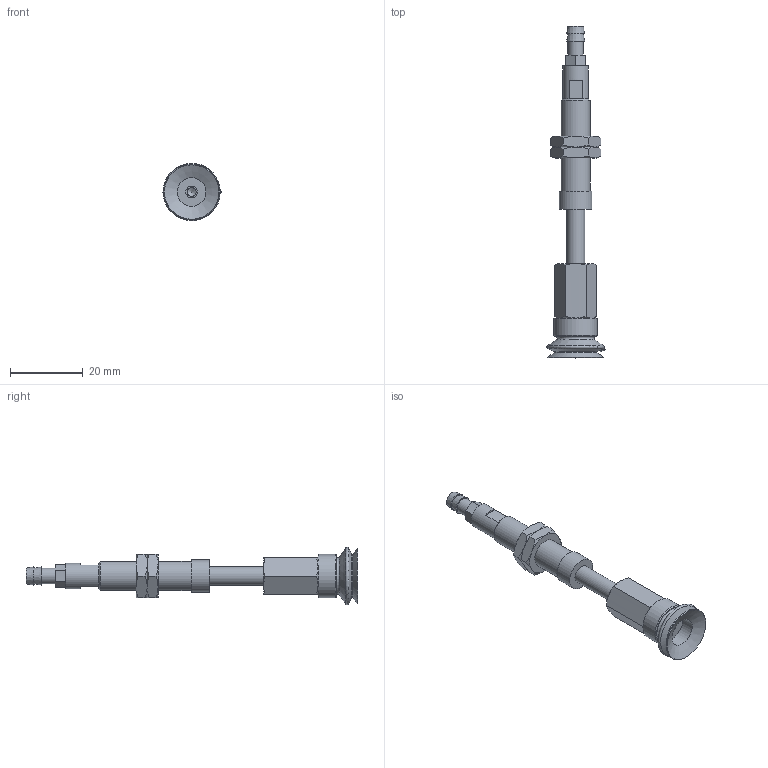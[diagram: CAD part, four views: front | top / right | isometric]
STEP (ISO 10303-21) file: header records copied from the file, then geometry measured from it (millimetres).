
FILE_DESCRIPTION(('STEP AP203'),'1');
FILE_NAME('-T.stp','2025-08-27T07:37:47',(' '),(' '),'Spatial InterOp 3D',' ',' ');
FILE_SCHEMA(('CONFIG_CONTROL_DESIGN'));
Length unit declared in the file: millimetre
Products named in the file (8): BNABPJTS-15-15-※-T; ADAPTER; NAPCTS-10-15-MBODY; Adapter-15-NAPJ; NUT-NAPJ-15-15-s; NAPJTS-15-15-FBODY; BPJG-15-※; T
Assembly tree (8 placements, depth 2):
  BNABPJTS-15-15-※-T
    ADAPTER
    NAPCTS-10-15-MBODY
    Adapter-15-NAPJ
    NUT-NAPJ-15-15-s  x2
    NAPJTS-15-15-FBODY
    BPJG-15-※
    T
Bounding box: 15.99 x 91.5 x 15.78 mm (x, y, z)
Volume: 5039.5 mm3; surface area: 5695.4 mm2
Topology: 8 solids, 8 shells, 155 faces, 325 edges, 194 vertices
Faces by surface type: plane 62, cone 56, cylinder 18, torus 9, bspline 6, sphere 4
Full cylindrical faces by diameter (mm): 2.5 x1, 3 x1, 4.134 x2, 4.3 x1, 4.6 x1, 5 x4, 7 x1, 7.188 x2, 7.9 x1, 8 x2, 9 x1, 12 x1
Entity records: 4088 total; most frequent: CARTESIAN_POINT 1131, DIRECTION 544, ORIENTED_EDGE 452, AXIS2_PLACEMENT_3D 239, EDGE_CURVE 226, EDGE_LOOP 191, VERTEX_POINT 158, FACE_OUTER_BOUND 156
